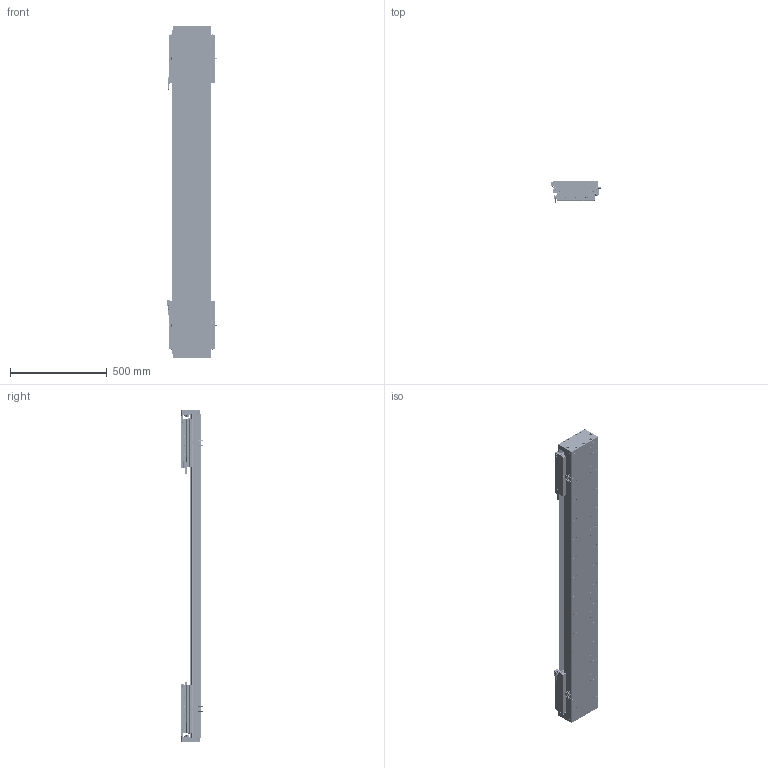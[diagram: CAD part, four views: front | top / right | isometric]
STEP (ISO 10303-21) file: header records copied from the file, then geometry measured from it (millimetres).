
FILE_DESCRIPTION (( 'STEP AP203' ), '1' );
FILE_NAME ('DA-C195-2-C3-T1100-C010-0.2 眻盄萇儂.STEP', '2025-08-14T11:03:04', ( '' ), ( '' ), 'SwSTEP 2.0', 'SolidWorks 2019', '' );
FILE_SCHEMA (( 'CONFIG_CONTROL_DESIGN' ));
Length unit declared in the file: millimetre
Products named in the file (19): DA195詩湍郪璃; DA-C195-GD-DB-H-00 傷啣; 葩璃 DA95-GT-T-00; DA95-HXJ-00 遣喳砎蝶; PM-Y65嫖萇羲壽郪璃; IU-CU195-L-00 菁釱(L1680); DA-C195-2-C3-T1100-C010-0.2 眻盄萇儂; DKW168-HXJ-ZJ-00 笢潔滅袉砎蝶; MS200 棠掑喜S315-T240; DKW-GYP-ZJ-00 笢潔嫖萇覜茼え; CU195-C3賑輸-俋楷; DA195詩湍嶺輸; DKW-KGZ-ZJ-00 中间光电开关支架; DA195詩湍菜輸; IU-CU195-L 菁釱絳寢; DA195詩湍裔啣; DA165-GYP-00 光电感应片(默认); LMT黍杅芛; PM-T45ㄗ侂狟ㄘ
Assembly tree (37 placements, depth 3):
  DA-C195-2-C3-T1100-C010-0.2 眻盄萇儂
    DA195詩湍郪璃
      DA195詩湍菜輸  x2
      DA195詩湍裔啣
      DA195詩湍嶺輸  x2
      DA95-HXJ-00 遣喳砎蝶  x8
      DA-C195-GD-DB-H-00 傷啣  x2
    IU-CU195-L 菁釱絳寢
      IU-CU195-L-00 菁釱(L1680)
      葩璃 DA95-GT-T-00  x4
    LMT黍杅芛  x2
    MS200 棠掑喜S315-T240
    PM-T45ㄗ侂狟ㄘ  x4
    DA165-GYP-00 光电感应片(默认)  x2
    PM-Y65嫖萇羲壽郪璃
    DKW168-HXJ-ZJ-00 笢潔滅袉砎蝶
    DKW-GYP-ZJ-00 笢潔嫖萇覜茼え
    DKW-KGZ-ZJ-00 中间光电开关支架
    CU195-C3賑輸-俋楷  x2
Bounding box: 258.2 x 115.45 x 1720 mm (x, y, z)
Volume: 12494257.2 mm3; surface area: 3477821 mm2
Topology: 154 solids, 218 shells, 6509 faces, 16959 edges, 10501 vertices
Faces by surface type: cylinder 2922, plane 2535, cone 884, torus 88, sphere 72, bspline 8
Entity records: 129863 total; most frequent: CARTESIAN_POINT 32069, ORIENTED_EDGE 19934, DIRECTION 19760, EDGE_CURVE 9967, AXIS2_PLACEMENT_3D 7237, VERTEX_POINT 6426, LINE 5286, VECTOR 5286
